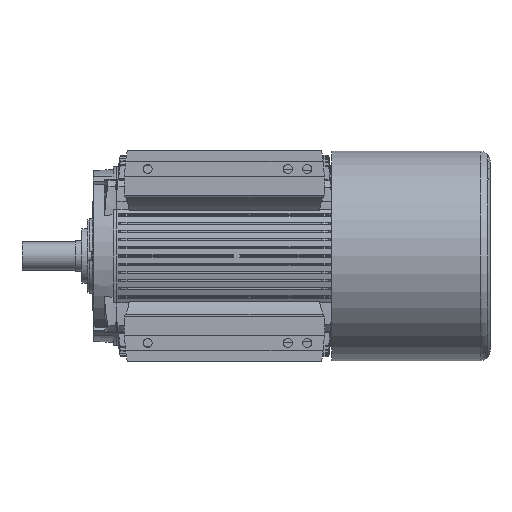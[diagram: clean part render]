
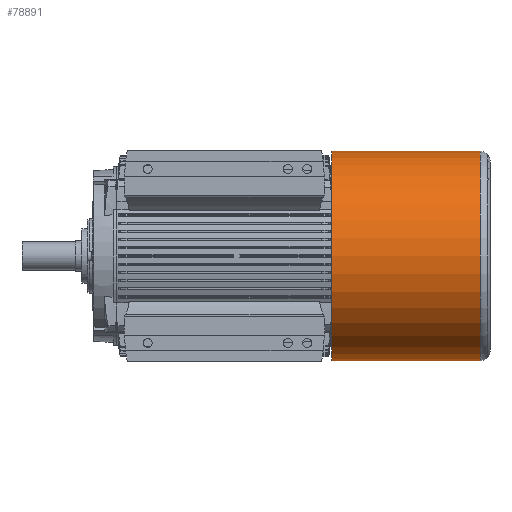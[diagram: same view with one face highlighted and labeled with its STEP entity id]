
A CAD part, front view. The second image highlights one B-rep face of the part: STEP entity #78891.
In plain terms, the highlighted cylindrical face has radius 275 mm (diameter 550 mm), a partial arc.
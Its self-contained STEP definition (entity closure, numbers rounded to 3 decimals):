
#78684=CARTESIAN_POINT('',(0.,0.,123.));
#78685=DIRECTION('',(0.,0.,-1.));
#78686=DIRECTION('',(1.,0.,0.));
#78687=AXIS2_PLACEMENT_3D('',#78684,#78685,#78686);
#78704=DIRECTION('',(0.,0.,1.));
#78705=VECTOR('',#78704,390.);
#78706=CARTESIAN_POINT('',(275.,0.,123.));
#78707=LINE('',#78706,#78705);
#78708=DIRECTION('',(0.,0.,1.));
#78709=VECTOR('',#78708,390.);
#78710=CARTESIAN_POINT('',(-275.,0.,123.));
#78711=LINE('',#78710,#78709);
#78712=CARTESIAN_POINT('',(0.,0.,513.));
#78713=DIRECTION('',(0.,0.,1.));
#78714=DIRECTION('',(-1.,0.,0.));
#78715=AXIS2_PLACEMENT_3D('',#78712,#78713,#78714);
#78792=CARTESIAN_POINT('',(-275.,0.,123.));
#78793=VERTEX_POINT('',#78792);
#78794=CARTESIAN_POINT('',(275.,0.,123.));
#78795=VERTEX_POINT('',#78794);
#78812=CARTESIAN_POINT('',(275.,0.,513.));
#78813=VERTEX_POINT('',#78812);
#78814=CARTESIAN_POINT('',(-275.,0.,513.));
#78815=VERTEX_POINT('',#78814);
#78877=CARTESIAN_POINT('',(0.,0.,0.));
#78878=DIRECTION('',(0.,0.,1.));
#78879=DIRECTION('',(1.,0.,0.));
#78880=AXIS2_PLACEMENT_3D('',#78877,#78878,#78879);
#78881=CYLINDRICAL_SURFACE('',#78880,275.);
#78883=ORIENTED_EDGE('',*,*,#78882,.F.);
#78884=ORIENTED_EDGE('',*,*,#78867,.T.);
#78886=ORIENTED_EDGE('',*,*,#78885,.T.);
#78888=ORIENTED_EDGE('',*,*,#78887,.T.);
#78889=EDGE_LOOP('',(#78883,#78884,#78886,#78888));
#78890=FACE_OUTER_BOUND('',#78889,.F.);
#78688=CIRCLE('',#78687,275.);
#78716=CIRCLE('',#78715,275.);
#78867=EDGE_CURVE('',#78795,#78793,#78688,.T.);
#78882=EDGE_CURVE('',#78795,#78813,#78707,.T.);
#78885=EDGE_CURVE('',#78793,#78815,#78711,.T.);
#78887=EDGE_CURVE('',#78815,#78813,#78716,.T.);
#78891=ADVANCED_FACE('',(#78890),#78881,.T.);
